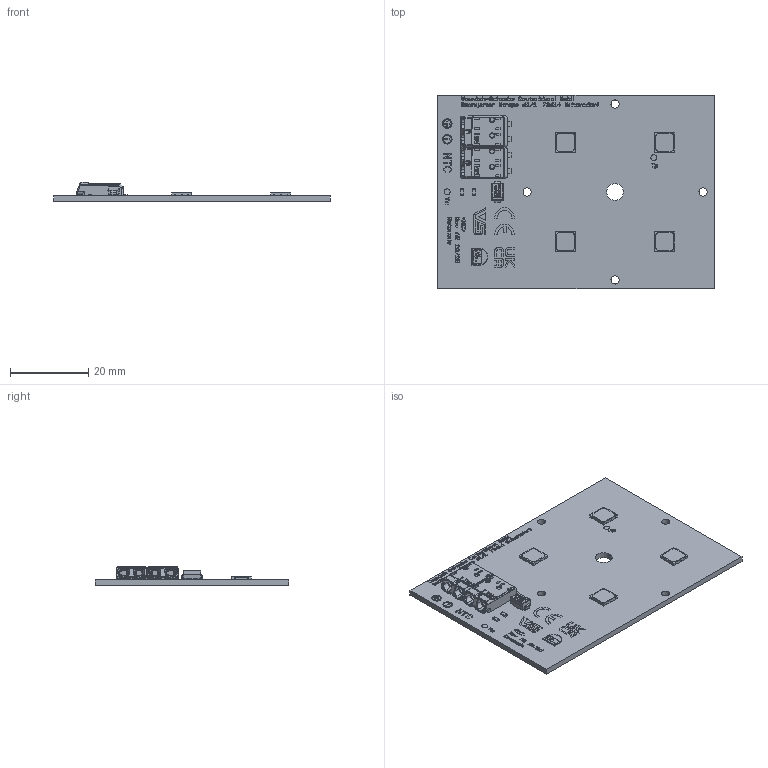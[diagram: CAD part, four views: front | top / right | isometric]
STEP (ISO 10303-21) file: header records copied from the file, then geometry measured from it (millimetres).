
FILE_DESCRIPTION(('Creo Elements/Direct Modeling STEP Export'),'2;1');
FILE_NAME('3D-Model_MSP SC 2R_Z15_5050_T_4_yzz_NTC G4.stp','2025-05-29T13:14:09',(''),(''),'PTC Creo Elements/Direct Modeling STEP processor for AP214 (Solid Model)','PTC Creo Elements/Direct Modeling 19.0E 27-Jun-2016 (C) Parametric Technology GmbH','');
FILE_SCHEMA(('AUTOMOTIVE_DESIGN { 1 0 10303 214 1 1 1 1 }'));
Length unit declared in the file: millimetre
Products named in the file (126): p1; SMA__DO-214AC_.prt; SMA__DO-214AC_.STEP; Plate; LUXEON_5050_HE_3D.prt; LUXEON_5050_HE_3D.prt.1; LUXEON_5050_HE_3D.STEP; Text.73; Text.78; Text.80; Text.81; Text.68; Text.87; Text.71; Text.83; Text.90; Text.77; Text.72; Text.76; Text.82; Text.86; Text.88; Text.89; Text.85; Text.74; Text.75; Text.69; Text.70; Text.79; Text.84; Text.63; Text.61; Text.56; Text.64; Text.65; Text.67; Text.45; Text.59; Text.58; Text.49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
Assembly tree (123 placements, depth 2):
  p1
  SMA__DO-214AC_.STEP
    SMA__DO-214AC_.prt
  Plate
  LUXEON_5050_HE_3D.STEP
    LUXEON_5050_HE_3D.prt.1  x2
    LUXEON_5050_HE_3D.prt  x2
  AssyAddress
    Text.94
    Text.110
    Text.102
    Text.99
    Text.91
    Text.104
    Text.92
    Text.97
    Text.109
    Text.112
    Text.111
    Text.93
    Text.108
    Text.106
    Text.98
    Text.96
    Text.95
    Text.100
    Text.105
    Text.107
    Text.113
    Text.103
    Text.101
    Text.33
    Text.25
    Text.30
    Text.29
    Text.28
    Text.44
    Text.38
    Text.31
    Text.32
    Text.37
    Text.35
    Text.41
    Text.26
    Text.39
    Text.24
    Text.36
    Text.34
    Text.43
    Text.27
    Text.42
    Text.40
    Text.13
    Text.12
    Text.2
    Text.1
    Text
    Text.8
    Text.14
    Text.3
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Bounding box: 70.6 x 49.5 x 4.95 mm (x, y, z)
Volume: 5302.3 mm3; surface area: 8612 mm2
Topology: 122 solids, 124 shells, 3865 faces, 10272 edges, 6720 vertices
Faces by surface type: plane 2570, cylinder 914, bspline 198, cone 60, extrusion 55, sphere 36, torus 32
Entity records: 138359 total; most frequent: CARTESIAN_POINT 25506, ORIENTED_EDGE 17536, DIRECTION 16549, EDGE_CURVE 8769, VECTOR 6771, LINE 6716, VERTEX_POINT 5778, AXIS2_PLACEMENT_3D 4889
